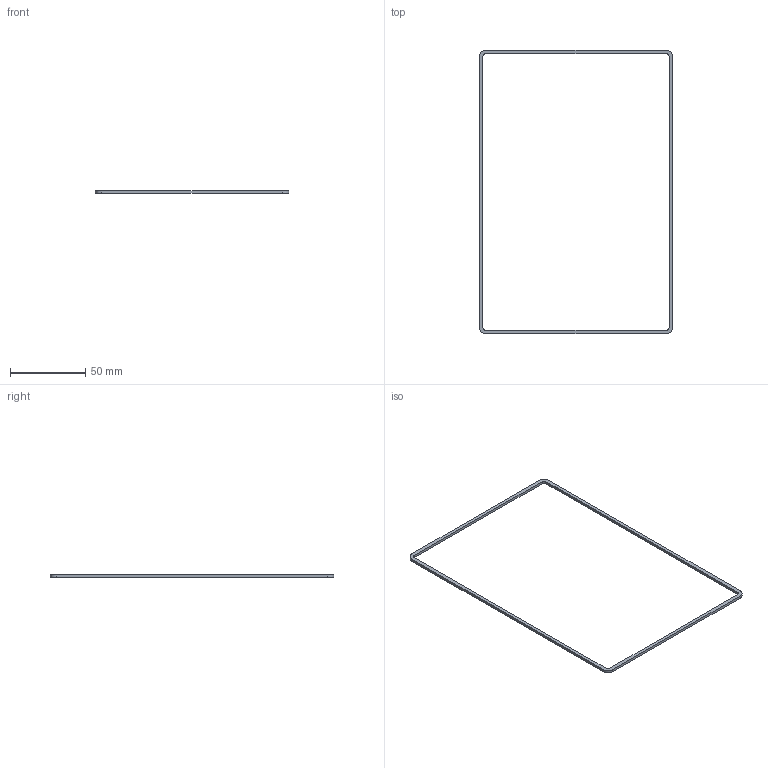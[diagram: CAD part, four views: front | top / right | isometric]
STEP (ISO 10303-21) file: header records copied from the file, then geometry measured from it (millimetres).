
FILE_DESCRIPTION(('Open CASCADE Model'),'2;1');
FILE_NAME('Open CASCADE Shape Model','2026-10-07T15:46:24',('Author'),( 'Open CASCADE'),'Open CASCADE STEP processor 7.9','Open CASCADE 7.9' ,'Unknown');
FILE_SCHEMA(('AUTOMOTIVE_DESIGN { 1 0 10303 214 1 1 1 1 }'));
Length unit declared in the file: millimetre
Products named in the file (1): Open CASCADE STEP translator 7.9 9
Bounding box: 128.4 x 188.4 x 1.8 mm (x, y, z)
Volume: 2673.4 mm3; surface area: 5198.3 mm2
Topology: 1 solids, 1 shells, 18 faces, 48 edges, 32 vertices
Faces by surface type: plane 10, cylinder 8
Entity records: 1202 total; most frequent: CARTESIAN_POINT 235, DIRECTION 178, ORIENTED_EDGE 96, LINE 96, VECTOR 96, PCURVE 96, DEFINITIONAL_REPRESENTATION 96, EDGE_CURVE 48
